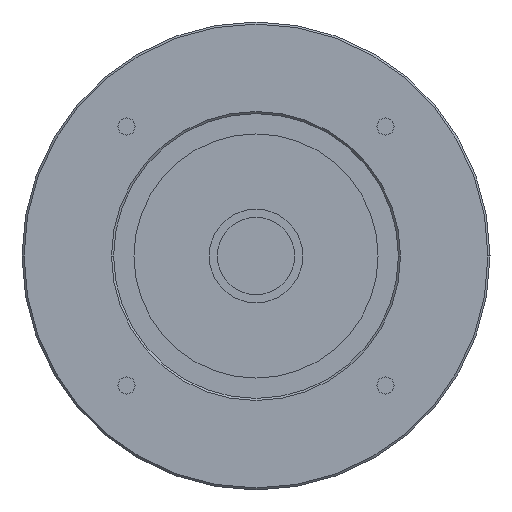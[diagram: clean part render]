
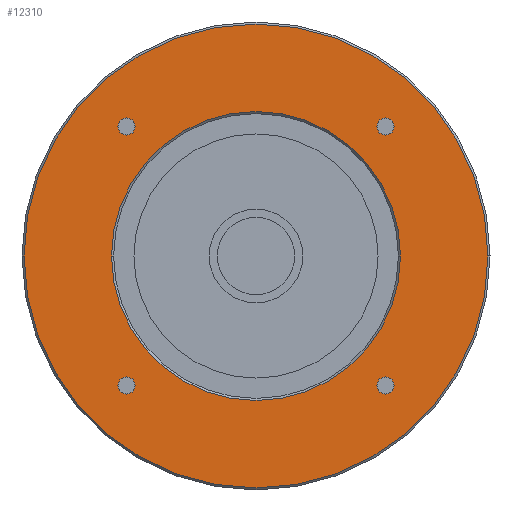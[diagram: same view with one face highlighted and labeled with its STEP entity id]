
A CAD part, left-side view. The second image highlights one B-rep face of the part: STEP entity #12310.
In plain terms, the highlighted planar face has unit normal (-1, 0, 0) as drawn and (0, 0, -1) by its records, which use the part's own axes.
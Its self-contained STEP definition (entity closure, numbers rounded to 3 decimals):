
#8820=CARTESIAN_POINT('',(31.82,-29.72,-45.4));
#8830=VERTEX_POINT('',#8820);
#8880=CARTESIAN_POINT('',(31.82,-31.82,-45.4));
#8890=DIRECTION('',(0.,0.,-1.));
#8900=DIRECTION('',(1.,0.,0.));
#8910=AXIS2_PLACEMENT_3D('',#8880,#8890,#8900);
#8920=CIRCLE('',#8910,2.1);
#8930=CARTESIAN_POINT('',(31.82,-33.92,-45.4));
#8940=VERTEX_POINT('',#8930);
#8950=EDGE_CURVE('',#8940,#8830,#8920,.T.);
#9240=CARTESIAN_POINT('',(31.82,33.92,-45.4));
#9250=VERTEX_POINT('',#9240);
#9300=CARTESIAN_POINT('',(31.82,31.82,-45.4));
#9310=DIRECTION('',(0.,0.,-1.));
#9320=DIRECTION('',(1.,0.,0.));
#9330=AXIS2_PLACEMENT_3D('',#9300,#9310,#9320);
#9340=CIRCLE('',#9330,2.1);
#9350=CARTESIAN_POINT('',(31.82,29.72,-45.4));
#9360=VERTEX_POINT('',#9350);
#9370=EDGE_CURVE('',#9360,#9250,#9340,.T.);
#11140=CARTESIAN_POINT('',(57.,0.,-45.4));
#11150=VERTEX_POINT('',#11140);
#11180=CARTESIAN_POINT('',(0.,0.,
-45.4));
#11190=DIRECTION('',(0.,0.,-1.));
#11200=DIRECTION('',(0.,-1.,0.));
#11210=AXIS2_PLACEMENT_3D('',#11180,#11190,#11200);
#11220=CIRCLE('',#11210,57.);
#11230=CARTESIAN_POINT('',(0.,-57.,-45.4));
#11240=VERTEX_POINT('',#11230);
#11250=EDGE_CURVE('',#11150,#11240,#11220,.T.);
#11270=CARTESIAN_POINT('',(-57.,0.,-45.4));
#11280=VERTEX_POINT('',#11270);
#11290=EDGE_CURVE('',#11240,#11280,#11220,.T.);
#11450=CARTESIAN_POINT('',(0.,0.,
-45.4));
#11460=DIRECTION('',(0.,0.,-1.));
#11470=DIRECTION('',(0.,-1.,0.));
#11480=AXIS2_PLACEMENT_3D('',#11450,#11460,#11470);
#11490=PLANE('',#11480);
#11500=EDGE_CURVE('',#11280,#11150,#11220,.T.);
#11510=ORIENTED_EDGE('',*,*,#11500,.T.);
#11520=ORIENTED_EDGE('',*,*,#11290,.T.);
#11530=ORIENTED_EDGE('',*,*,#11250,.T.);
#11540=EDGE_LOOP('',(#11530,#11520,#11510));
#11550=FACE_OUTER_BOUND('',#11540,.T.);
#11560=CARTESIAN_POINT('',(0.,0.,
-45.4));
#11570=DIRECTION('',(0.,0.,-1.));
#11580=DIRECTION('',(0.,-1.,0.));
#11590=AXIS2_PLACEMENT_3D('',#11560,#11570,#11580);
#11600=CIRCLE('',#11590,35.5);
#11610=CARTESIAN_POINT('',(0.,-35.5,-45.4));
#11620=VERTEX_POINT('',#11610);
#11630=CARTESIAN_POINT('',(-35.5,0.,-45.4));
#11640=VERTEX_POINT('',#11630);
#11650=EDGE_CURVE('',#11620,#11640,#11600,.T.);
#11660=ORIENTED_EDGE('',*,*,#11650,.F.);
#11670=CARTESIAN_POINT('',(35.5,0.,-45.4));
#11680=VERTEX_POINT('',#11670);
#11690=EDGE_CURVE('',#11640,#11680,#11600,.T.);
#11700=ORIENTED_EDGE('',*,*,#11690,.F.);
#11710=EDGE_CURVE('',#11680,#11620,#11600,.T.);
#11720=ORIENTED_EDGE('',*,*,#11710,.F.);
#11730=EDGE_LOOP('',(#11720,#11700,#11660));
#11740=FACE_BOUND('',#11730,.T.);
#11750=CARTESIAN_POINT('',(-31.82,-31.82,-45.4));
#11760=DIRECTION('',(0.,0.,-1.));
#11770=DIRECTION('',(1.,0.,0.));
#11780=AXIS2_PLACEMENT_3D('',#11750,#11760,#11770);
#11790=CIRCLE('',#11780,2.1);
#11800=CARTESIAN_POINT('',(-29.72,-31.82,-45.4));
#11810=VERTEX_POINT('',#11800);
#11820=CARTESIAN_POINT('',(-31.82,-33.92,-45.4));
#11830=VERTEX_POINT('',#11820);
#11840=EDGE_CURVE('',#11810,#11830,#11790,.T.);
#11850=ORIENTED_EDGE('',*,*,#11840,.F.);
#11860=CARTESIAN_POINT('',(-31.82,-29.72,-45.4));
#11870=VERTEX_POINT('',#11860);
#11880=EDGE_CURVE('',#11830,#11870,#11790,.T.);
#11890=ORIENTED_EDGE('',*,*,#11880,.F.);
#11900=EDGE_CURVE('',#11870,#11810,#11790,.T.);
#11910=ORIENTED_EDGE('',*,*,#11900,.F.);
#11920=EDGE_LOOP('',(#11910,#11890,#11850));
#11930=FACE_BOUND('',#11920,.T.);
#11940=CARTESIAN_POINT('',(-31.82,31.82,-45.4));
#11950=DIRECTION('',(0.,0.,-1.));
#11960=DIRECTION('',(1.,0.,0.));
#11970=AXIS2_PLACEMENT_3D('',#11940,#11950,#11960);
#11980=CIRCLE('',#11970,2.1);
#11990=CARTESIAN_POINT('',(-29.72,31.82,-45.4));
#12000=VERTEX_POINT('',#11990);
#12010=CARTESIAN_POINT('',(-31.82,29.72,-45.4));
#12020=VERTEX_POINT('',#12010);
#12030=EDGE_CURVE('',#12000,#12020,#11980,.T.);
#12040=ORIENTED_EDGE('',*,*,#12030,.F.);
#12050=CARTESIAN_POINT('',(-31.82,33.92,-45.4));
#12060=VERTEX_POINT('',#12050);
#12070=EDGE_CURVE('',#12020,#12060,#11980,.T.);
#12080=ORIENTED_EDGE('',*,*,#12070,.F.);
#12090=EDGE_CURVE('',#12060,#12000,#11980,.T.);
#12100=ORIENTED_EDGE('',*,*,#12090,.F.);
#12110=EDGE_LOOP('',(#12100,#12080,#12040));
#12120=FACE_BOUND('',#12110,.T.);
#12130=CARTESIAN_POINT('',(33.92,31.82,-45.4));
#12140=VERTEX_POINT('',#12130);
#12150=EDGE_CURVE('',#12140,#9360,#9340,.T.);
#12160=ORIENTED_EDGE('',*,*,#12150,.F.);
#12170=ORIENTED_EDGE('',*,*,#9370,.F.);
#12180=EDGE_CURVE('',#9250,#12140,#9340,.T.);
#12190=ORIENTED_EDGE('',*,*,#12180,.F.);
#12200=EDGE_LOOP('',(#12190,#12170,#12160));
#12210=FACE_BOUND('',#12200,.T.);
#12220=CARTESIAN_POINT('',(33.92,-31.82,-45.4));
#12230=VERTEX_POINT('',#12220);
#12240=EDGE_CURVE('',#12230,#8940,#8920,.T.);
#12250=ORIENTED_EDGE('',*,*,#12240,.F.);
#12260=ORIENTED_EDGE('',*,*,#8950,.F.);
#12270=EDGE_CURVE('',#8830,#12230,#8920,.T.);
#12280=ORIENTED_EDGE('',*,*,#12270,.F.);
#12290=EDGE_LOOP('',(#12280,#12260,#12250));
#12300=FACE_BOUND('',#12290,.T.);
#12310=ADVANCED_FACE('',(#11550,#11740,#11930,#12120,#12210,#12300),
#11490,.T.);
